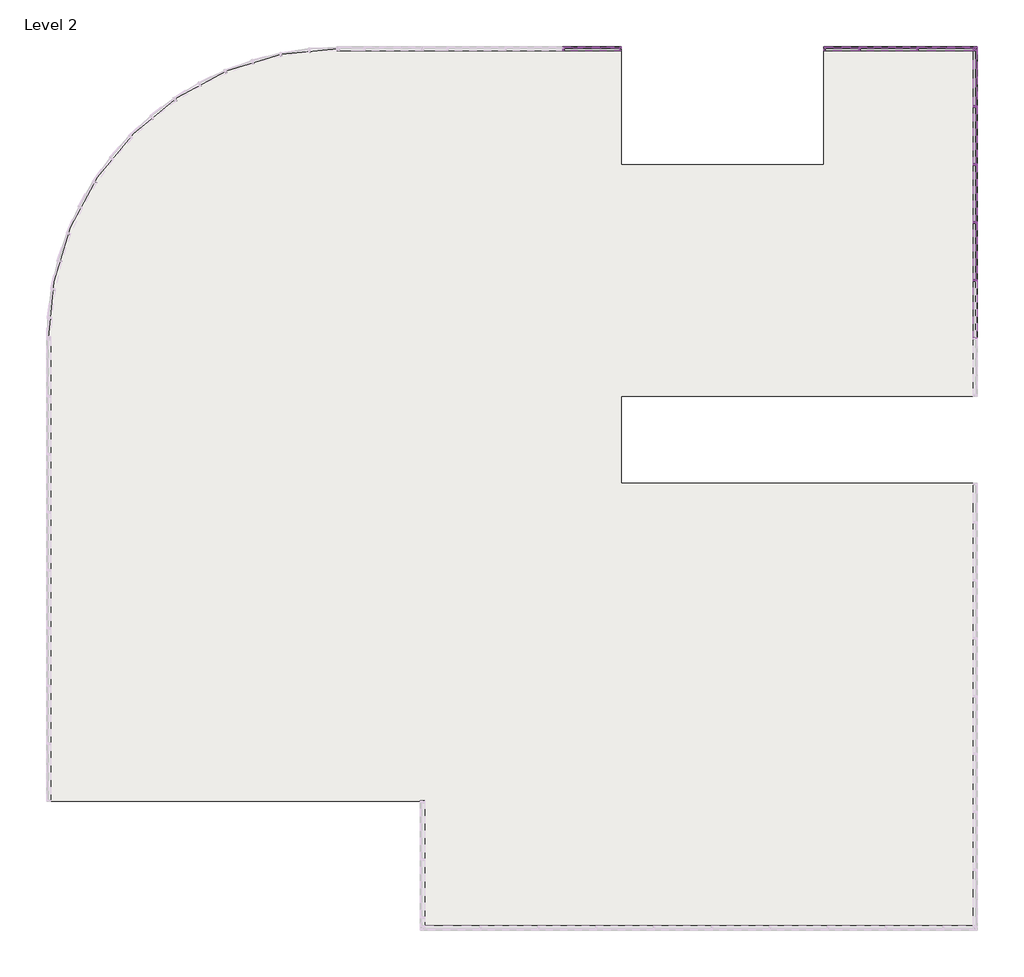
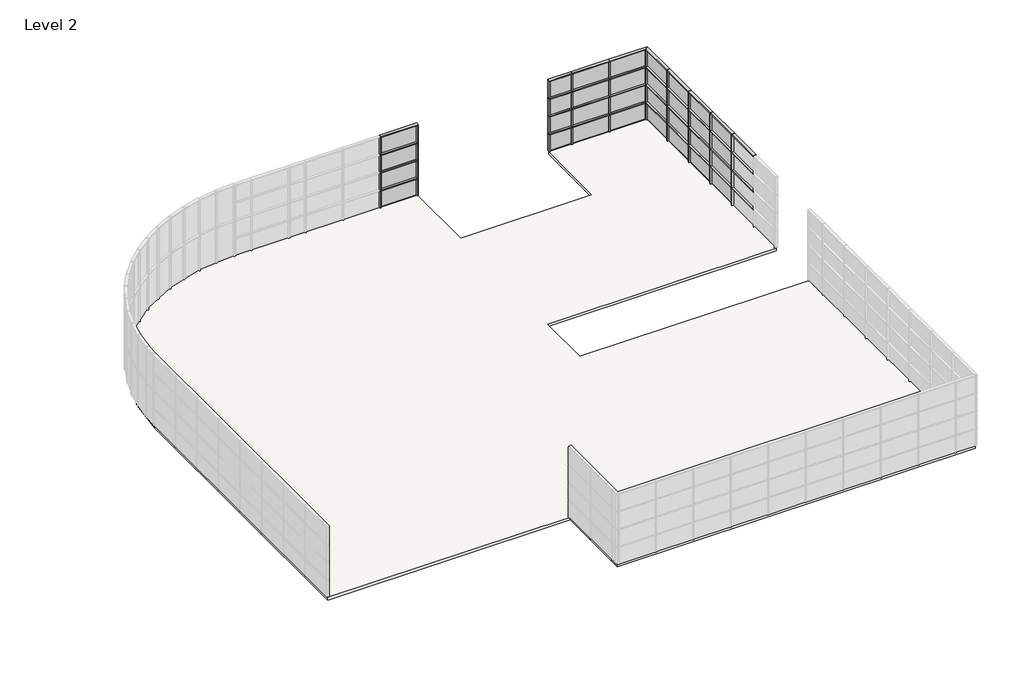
# One storey, part 6 of 6: 80 members, 32 plates, 1 slab.
"""IFC4 building model written with IfcOpenShell, lengths in millimetres."""

from ifc_helpers import new_model, si_unit, point, frame, frame_2d, origin, place, context, project, spatial, polyline, circle_curve, trimmed, segment, composite_curve, outline, extrude, transform, mapped, element, save
from components import rectangular_mullion_50_x_150mm_a053b0ca, rectangular_mullion_50_x_150mm_3a148f0f, rectangular_mullion_50_x_150mm_12a430f9, rectangular_mullion_50_x_150mm_11a594ce, rectangular_mullion_50_x_150mm_6b24f785, rectangular_mullion_50_x_150mm_947845bb, system_panel_glazed_751a585c, system_panel_glazed_08de6f5f, system_panel_glazed_892a108f

model = new_model("IFC4")

# Units and contexts
model_context = context("Model", 3, world=origin())
ifc_project = project(units=[si_unit("LENGTHUNIT", "METRE", prefix="MILLI")], contexts=[model_context])

# Site, building, storey
site = spatial("IfcSite", under=ifc_project)
building = spatial("IfcBuilding", under=site)
storey = spatial("IfcBuildingStorey", under=building, Name="Level 2", Elevation=4000.0)

# Members
placement = place(None, origin())
rectangular_mullion_50_x_150mm_shape = rectangular_mullion_50_x_150mm_a053b0ca(model_context)
element("IfcMember", 1, ObjectType="Rectangular Mullion : 50 x 150mm", at=placement, inside=storey, context=model_context, shape_type="MappedRepresentation", body=[
    mapped(rectangular_mullion_50_x_150mm_shape, transform((-721.580781, 8375.9839566, 4025.0), x_axis=(-1.0, 0.0, 0.0), y_axis=(0.0, 1.0, 0.0), z_axis=(0.0, 0.0, -1.0))),
])
element("IfcMember", 2, ObjectType="Rectangular Mullion : 50 x 150mm", at=placement, inside=storey, context=model_context, shape_type="MappedRepresentation", body=[
    mapped(rectangular_mullion_50_x_150mm_shape, transform((-721.580781, 8375.9839566, 5025.0), x_axis=(-1.0, 0.0, 0.0), y_axis=(0.0, 1.0, 0.0), z_axis=(0.0, 0.0, -0.9999999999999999))),
])
element("IfcMember", 3, ObjectType="Rectangular Mullion : 50 x 150mm", at=placement, inside=storey, context=model_context, shape_type="MappedRepresentation", body=[
    mapped(rectangular_mullion_50_x_150mm_shape, transform((-721.580781, 8375.9839566, 6025.0), x_axis=(-1.0, 0.0, 0.0), y_axis=(0.0, 1.0, 0.0), z_axis=(0.0, 0.0, -0.9999999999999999))),
])
element("IfcMember", 4, ObjectType="Rectangular Mullion : 50 x 150mm", at=placement, inside=storey, context=model_context, shape_type="MappedRepresentation", body=[
    mapped(rectangular_mullion_50_x_150mm_shape, transform((-721.580781, 8375.9839566, 7025.0), x_axis=(-1.0, 0.0, 0.0), y_axis=(0.0, 1.0, 0.0), z_axis=(0.0, 0.0, -1.0))),
])
element("IfcMember", 5, ObjectType="Rectangular Mullion : 50 x 150mm", at=placement, inside=storey, context=model_context, shape_type="MappedRepresentation", body=[
    mapped(rectangular_mullion_50_x_150mm_shape, transform((11503.2660975, 8375.9839566, 4025.0), x_axis=(-1.0, 0.0, 0.0), y_axis=(0.0, 1.0, 0.0), z_axis=(0.0, 0.0, -1.0))),
])
element("IfcMember", 6, ObjectType="Rectangular Mullion : 50 x 150mm", at=placement, inside=storey, context=model_context, shape_type="MappedRepresentation", body=[
    mapped(rectangular_mullion_50_x_150mm_shape, transform((11503.2660975, 8375.9839566, 5025.0), x_axis=(-1.0, 0.0, 0.0), y_axis=(0.0, 1.0, 0.0), z_axis=(0.0, 0.0, -0.9999999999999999))),
])
element("IfcMember", 7, ObjectType="Rectangular Mullion : 50 x 150mm", at=placement, inside=storey, context=model_context, shape_type="MappedRepresentation", body=[
    mapped(rectangular_mullion_50_x_150mm_shape, transform((11503.2660975, 8375.9839566, 6025.0), x_axis=(-1.0, 0.0, 0.0), y_axis=(0.0, 1.0, 0.0), z_axis=(0.0, 0.0, -0.9999999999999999))),
])
element("IfcMember", 8, ObjectType="Rectangular Mullion : 50 x 150mm", at=placement, inside=storey, context=model_context, shape_type="MappedRepresentation", body=[
    mapped(rectangular_mullion_50_x_150mm_shape, transform((11503.2660975, 8375.9839566, 7025.0), x_axis=(-1.0, 0.0, 0.0), y_axis=(0.0, 1.0, 0.0), z_axis=(0.0, 0.0, -1.0))),
])
element("IfcMember", 9, ObjectType="Rectangular Mullion : 50 x 150mm", at=placement, inside=storey, context=model_context, shape_type="MappedRepresentation", body=[
    mapped(rectangular_mullion_50_x_150mm_shape, transform((9503.2660975, 8375.9839566, 4025.0), x_axis=(-1.0, 0.0, 0.0), y_axis=(0.0, 1.0, 0.0), z_axis=(0.0, 0.0, -1.0))),
])
element("IfcMember", 10, ObjectType="Rectangular Mullion : 50 x 150mm", at=placement, inside=storey, context=model_context, shape_type="MappedRepresentation", body=[
    mapped(rectangular_mullion_50_x_150mm_shape, transform((9503.2660975, 8375.9839566, 5025.0), x_axis=(-1.0, 0.0, 0.0), y_axis=(0.0, 1.0, 0.0), z_axis=(0.0, 0.0, -0.9999999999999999))),
])
element("IfcMember", 11, ObjectType="Rectangular Mullion : 50 x 150mm", at=placement, inside=storey, context=model_context, shape_type="MappedRepresentation", body=[
    mapped(rectangular_mullion_50_x_150mm_shape, transform((9503.2660975, 8375.9839566, 6025.0), x_axis=(-1.0, 0.0, 0.0), y_axis=(0.0, 1.0, 0.0), z_axis=(0.0, 0.0, -0.9999999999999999))),
])
element("IfcMember", 12, ObjectType="Rectangular Mullion : 50 x 150mm", at=placement, inside=storey, context=model_context, shape_type="MappedRepresentation", body=[
    mapped(rectangular_mullion_50_x_150mm_shape, transform((9503.2660975, 8375.9839566, 7025.0), x_axis=(-1.0, 0.0, 0.0), y_axis=(0.0, 1.0, 0.0), z_axis=(0.0, 0.0, -1.0))),
])
element("IfcMember", 13, ObjectType="Rectangular Mullion : 50 x 150mm", at=placement, inside=storey, context=model_context, shape_type="MappedRepresentation", body=[
    mapped(rectangular_mullion_50_x_150mm_shape, transform((13503.2660975, 375.9839566, 4025.0), x_axis=(0.0, 1.0, 0.0), y_axis=(1.0, 0.0, 0.0), z_axis=(0.0, 0.0, -1.0))),
])
element("IfcMember", 14, ObjectType="Rectangular Mullion : 50 x 150mm", at=placement, inside=storey, context=model_context, shape_type="MappedRepresentation", body=[
    mapped(rectangular_mullion_50_x_150mm_shape, transform((13503.2660975, 375.9839566, 5025.0), x_axis=(0.0, 1.0, 0.0), y_axis=(1.0, 0.0, 0.0), z_axis=(0.0, 0.0, -0.9999999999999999))),
])
element("IfcMember", 15, ObjectType="Rectangular Mullion : 50 x 150mm", at=placement, inside=storey, context=model_context, shape_type="MappedRepresentation", body=[
    mapped(rectangular_mullion_50_x_150mm_shape, transform((13503.2660975, 375.9839566, 6025.0), x_axis=(0.0, 1.0, 0.0), y_axis=(1.0, 0.0, 0.0), z_axis=(0.0, 0.0, -0.9999999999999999))),
])
element("IfcMember", 16, ObjectType="Rectangular Mullion : 50 x 150mm", at=placement, inside=storey, context=model_context, shape_type="MappedRepresentation", body=[
    mapped(rectangular_mullion_50_x_150mm_shape, transform((13503.2660975, 375.9839566, 7025.0), x_axis=(0.0, 1.0, 0.0), y_axis=(1.0, 0.0, 0.0), z_axis=(0.0, 0.0, -1.0))),
])
element("IfcMember", 17, ObjectType="Rectangular Mullion : 50 x 150mm", at=placement, inside=storey, context=model_context, shape_type="MappedRepresentation", body=[
    mapped(rectangular_mullion_50_x_150mm_shape, transform((13503.2660975, 2375.9839566, 4025.0), x_axis=(0.0, 1.0, 0.0), y_axis=(1.0, 0.0, 0.0), z_axis=(0.0, 0.0, -1.0))),
])
element("IfcMember", 18, ObjectType="Rectangular Mullion : 50 x 150mm", at=placement, inside=storey, context=model_context, shape_type="MappedRepresentation", body=[
    mapped(rectangular_mullion_50_x_150mm_shape, transform((13503.2660975, 2375.9839566, 5025.0), x_axis=(0.0, 1.0, 0.0), y_axis=(1.0, 0.0, 0.0), z_axis=(0.0, 0.0, -0.9999999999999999))),
])
element("IfcMember", 19, ObjectType="Rectangular Mullion : 50 x 150mm", at=placement, inside=storey, context=model_context, shape_type="MappedRepresentation", body=[
    mapped(rectangular_mullion_50_x_150mm_shape, transform((13503.2660975, 2375.9839566, 6025.0), x_axis=(0.0, 1.0, 0.0), y_axis=(1.0, 0.0, 0.0), z_axis=(0.0, 0.0, -0.9999999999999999))),
])
element("IfcMember", 20, ObjectType="Rectangular Mullion : 50 x 150mm", at=placement, inside=storey, context=model_context, shape_type="MappedRepresentation", body=[
    mapped(rectangular_mullion_50_x_150mm_shape, transform((13503.2660975, 2375.9839566, 7025.0), x_axis=(0.0, 1.0, 0.0), y_axis=(1.0, 0.0, 0.0), z_axis=(0.0, 0.0, -1.0))),
])
element("IfcMember", 21, ObjectType="Rectangular Mullion : 50 x 150mm", at=placement, inside=storey, context=model_context, shape_type="MappedRepresentation", body=[
    mapped(rectangular_mullion_50_x_150mm_shape, transform((13503.2660975, 4375.9839566, 4025.0), x_axis=(0.0, 1.0, 0.0), y_axis=(1.0, 0.0, 0.0), z_axis=(0.0, 0.0, -1.0))),
])
element("IfcMember", 22, ObjectType="Rectangular Mullion : 50 x 150mm", at=placement, inside=storey, context=model_context, shape_type="MappedRepresentation", body=[
    mapped(rectangular_mullion_50_x_150mm_shape, transform((13503.2660975, 4375.9839566, 5025.0), x_axis=(0.0, 1.0, 0.0), y_axis=(1.0, 0.0, 0.0), z_axis=(0.0, 0.0, -0.9999999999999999))),
])
element("IfcMember", 23, ObjectType="Rectangular Mullion : 50 x 150mm", at=placement, inside=storey, context=model_context, shape_type="MappedRepresentation", body=[
    mapped(rectangular_mullion_50_x_150mm_shape, transform((13503.2660975, 4375.9839566, 6025.0), x_axis=(0.0, 1.0, 0.0), y_axis=(1.0, 0.0, 0.0), z_axis=(0.0, 0.0, -0.9999999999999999))),
])
element("IfcMember", 24, ObjectType="Rectangular Mullion : 50 x 150mm", at=placement, inside=storey, context=model_context, shape_type="MappedRepresentation", body=[
    mapped(rectangular_mullion_50_x_150mm_shape, transform((13503.2660975, 4375.9839566, 7025.0), x_axis=(0.0, 1.0, 0.0), y_axis=(1.0, 0.0, 0.0), z_axis=(0.0, 0.0, -1.0))),
])
element("IfcMember", 25, ObjectType="Rectangular Mullion : 50 x 150mm", at=placement, inside=storey, context=model_context, shape_type="MappedRepresentation", body=[
    mapped(rectangular_mullion_50_x_150mm_shape, transform((13503.2660975, 6375.9839566, 4025.0), x_axis=(0.0, 1.0, 0.0), y_axis=(1.0, 0.0, 0.0), z_axis=(0.0, 0.0, -1.0))),
])
element("IfcMember", 26, ObjectType="Rectangular Mullion : 50 x 150mm", at=placement, inside=storey, context=model_context, shape_type="MappedRepresentation", body=[
    mapped(rectangular_mullion_50_x_150mm_shape, transform((13503.2660975, 6375.9839566, 5025.0), x_axis=(0.0, 1.0, 0.0), y_axis=(1.0, 0.0, 0.0), z_axis=(0.0, 0.0, -0.9999999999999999))),
])
element("IfcMember", 27, ObjectType="Rectangular Mullion : 50 x 150mm", at=placement, inside=storey, context=model_context, shape_type="MappedRepresentation", body=[
    mapped(rectangular_mullion_50_x_150mm_shape, transform((13503.2660975, 6375.9839566, 6025.0), x_axis=(0.0, 1.0, 0.0), y_axis=(1.0, 0.0, 0.0), z_axis=(0.0, 0.0, -0.9999999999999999))),
])
element("IfcMember", 28, ObjectType="Rectangular Mullion : 50 x 150mm", at=placement, inside=storey, context=model_context, shape_type="MappedRepresentation", body=[
    mapped(rectangular_mullion_50_x_150mm_shape, transform((13503.2660975, 6375.9839566, 7025.0), x_axis=(0.0, 1.0, 0.0), y_axis=(1.0, 0.0, 0.0), z_axis=(0.0, 0.0, -1.0))),
])
rectangular_mullion_50_x_150mm_2_shape = rectangular_mullion_50_x_150mm_3a148f0f(model_context)
element("IfcMember", 29, ObjectType="Rectangular Mullion : 50 x 150mm", at=placement, inside=storey, context=model_context, shape_type="MappedRepresentation", body=[
    mapped(rectangular_mullion_50_x_150mm_2_shape, transform((-721.580781, 8375.9839566, 5000.0), x_axis=(0.0, 0.0, 1.0), y_axis=(0.0, 1.0, 0.0), z_axis=(-1.0, 0.0, 0.0))),
])
element("IfcMember", 30, ObjectType="Rectangular Mullion : 50 x 150mm", at=placement, inside=storey, context=model_context, shape_type="MappedRepresentation", body=[
    mapped(rectangular_mullion_50_x_150mm_2_shape, transform((-721.580781, 8375.9839566, 6000.0), x_axis=(0.0, 0.0, 1.0), y_axis=(0.0, 1.0, 0.0), z_axis=(-1.0, 0.0, 0.0))),
])
element("IfcMember", 31, ObjectType="Rectangular Mullion : 50 x 150mm", at=placement, inside=storey, context=model_context, shape_type="MappedRepresentation", body=[
    mapped(rectangular_mullion_50_x_150mm_2_shape, transform((-721.580781, 8375.9839566, 7000.0), x_axis=(0.0, 0.0, 1.0), y_axis=(0.0, 1.0, 0.0), z_axis=(-1.0, 0.0, 0.0))),
])
element("IfcMember", 32, ObjectType="Rectangular Mullion : 50 x 150mm", at=placement, inside=storey, context=model_context, shape_type="MappedRepresentation", body=[
    mapped(rectangular_mullion_50_x_150mm_2_shape, transform((-721.580781, 8375.9839566, 8000.0), x_axis=(0.0, 0.0, 1.0), y_axis=(0.0, 1.0, 0.0), z_axis=(-1.0, 0.0, 0.0))),
])
element("IfcMember", 33, ObjectType="Rectangular Mullion : 50 x 150mm", at=placement, inside=storey, context=model_context, shape_type="MappedRepresentation", body=[
    mapped(rectangular_mullion_50_x_150mm_2_shape, transform((9503.2660975, 8375.9839566, 5000.0), x_axis=(0.0, 0.0, 1.0), y_axis=(0.0, 1.0, 0.0), z_axis=(-1.0, 0.0, 0.0))),
])
element("IfcMember", 34, ObjectType="Rectangular Mullion : 50 x 150mm", at=placement, inside=storey, context=model_context, shape_type="MappedRepresentation", body=[
    mapped(rectangular_mullion_50_x_150mm_2_shape, transform((9503.2660975, 8375.9839566, 6000.0), x_axis=(0.0, 0.0, 1.0), y_axis=(0.0, 1.0, 0.0), z_axis=(-1.0, 0.0, 0.0))),
])
element("IfcMember", 35, ObjectType="Rectangular Mullion : 50 x 150mm", at=placement, inside=storey, context=model_context, shape_type="MappedRepresentation", body=[
    mapped(rectangular_mullion_50_x_150mm_2_shape, transform((9503.2660975, 8375.9839566, 7000.0), x_axis=(0.0, 0.0, 1.0), y_axis=(0.0, 1.0, 0.0), z_axis=(-1.0, 0.0, 0.0))),
])
element("IfcMember", 36, ObjectType="Rectangular Mullion : 50 x 150mm", at=placement, inside=storey, context=model_context, shape_type="MappedRepresentation", body=[
    mapped(rectangular_mullion_50_x_150mm_2_shape, transform((9503.2660975, 8375.9839566, 8000.0), x_axis=(0.0, 0.0, 1.0), y_axis=(0.0, 1.0, 0.0), z_axis=(-1.0, 0.0, 0.0))),
])
element("IfcMember", 37, ObjectType="Rectangular Mullion : 50 x 150mm", at=placement, inside=storey, context=model_context, shape_type="MappedRepresentation", body=[
    mapped(rectangular_mullion_50_x_150mm_2_shape, transform((13503.2660975, 375.9839566, 5000.0), x_axis=(0.0, 0.0, 1.0), y_axis=(1.0, 0.0, 0.0), z_axis=(0.0, 0.9999999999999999, 0.0))),
])
element("IfcMember", 38, ObjectType="Rectangular Mullion : 50 x 150mm", at=placement, inside=storey, context=model_context, shape_type="MappedRepresentation", body=[
    mapped(rectangular_mullion_50_x_150mm_2_shape, transform((13503.2660975, 2375.9839566, 5000.0), x_axis=(0.0, 0.0, 1.0), y_axis=(1.0, 0.0, 0.0), z_axis=(0.0, 1.0, 0.0))),
])
element("IfcMember", 39, ObjectType="Rectangular Mullion : 50 x 150mm", at=placement, inside=storey, context=model_context, shape_type="MappedRepresentation", body=[
    mapped(rectangular_mullion_50_x_150mm_2_shape, transform((13503.2660975, 4375.9839566, 5000.0), x_axis=(0.0, 0.0, 1.0), y_axis=(1.0, 0.0, 0.0), z_axis=(0.0, 1.0, 0.0))),
])
element("IfcMember", 40, ObjectType="Rectangular Mullion : 50 x 150mm", at=placement, inside=storey, context=model_context, shape_type="MappedRepresentation", body=[
    mapped(rectangular_mullion_50_x_150mm_2_shape, transform((13503.2660975, 6375.9839566, 5000.0), x_axis=(0.0, 0.0, 1.0), y_axis=(1.0, 0.0, 0.0), z_axis=(0.0, 1.0, 0.0))),
])
element("IfcMember", 41, ObjectType="Rectangular Mullion : 50 x 150mm", at=placement, inside=storey, context=model_context, shape_type="MappedRepresentation", body=[
    mapped(rectangular_mullion_50_x_150mm_2_shape, transform((13503.2660975, 375.9839566, 6000.0), x_axis=(0.0, 0.0, 1.0), y_axis=(1.0, 0.0, 0.0), z_axis=(0.0, 1.0, 0.0))),
])
element("IfcMember", 42, ObjectType="Rectangular Mullion : 50 x 150mm", at=placement, inside=storey, context=model_context, shape_type="MappedRepresentation", body=[
    mapped(rectangular_mullion_50_x_150mm_2_shape, transform((13503.2660975, 2375.9839566, 6000.0), x_axis=(0.0, 0.0, 1.0), y_axis=(1.0, 0.0, 0.0), z_axis=(0.0, 1.0, 0.0))),
])
element("IfcMember", 43, ObjectType="Rectangular Mullion : 50 x 150mm", at=placement, inside=storey, context=model_context, shape_type="MappedRepresentation", body=[
    mapped(rectangular_mullion_50_x_150mm_2_shape, transform((13503.2660975, 4375.9839566, 6000.0), x_axis=(0.0, 0.0, 1.0), y_axis=(1.0, 0.0, 0.0), z_axis=(0.0, 1.0, 0.0))),
])
element("IfcMember", 44, ObjectType="Rectangular Mullion : 50 x 150mm", at=placement, inside=storey, context=model_context, shape_type="MappedRepresentation", body=[
    mapped(rectangular_mullion_50_x_150mm_2_shape, transform((13503.2660975, 6375.9839566, 6000.0), x_axis=(0.0, 0.0, 1.0), y_axis=(1.0, 0.0, 0.0), z_axis=(0.0, 1.0, 0.0))),
])
element("IfcMember", 45, ObjectType="Rectangular Mullion : 50 x 150mm", at=placement, inside=storey, context=model_context, shape_type="MappedRepresentation", body=[
    mapped(rectangular_mullion_50_x_150mm_2_shape, transform((13503.2660975, 375.9839566, 7000.0), x_axis=(0.0, 0.0, 1.0), y_axis=(1.0, 0.0, 0.0), z_axis=(0.0, 1.0, 0.0))),
])
element("IfcMember", 46, ObjectType="Rectangular Mullion : 50 x 150mm", at=placement, inside=storey, context=model_context, shape_type="MappedRepresentation", body=[
    mapped(rectangular_mullion_50_x_150mm_2_shape, transform((13503.2660975, 2375.9839566, 7000.0), x_axis=(0.0, 0.0, 1.0), y_axis=(1.0, 0.0, 0.0), z_axis=(0.0, 1.0, 0.0))),
])
element("IfcMember", 47, ObjectType="Rectangular Mullion : 50 x 150mm", at=placement, inside=storey, context=model_context, shape_type="MappedRepresentation", body=[
    mapped(rectangular_mullion_50_x_150mm_2_shape, transform((13503.2660975, 4375.9839566, 7000.0), x_axis=(0.0, 0.0, 1.0), y_axis=(1.0, 0.0, 0.0), z_axis=(0.0, 1.0, 0.0))),
])
element("IfcMember", 48, ObjectType="Rectangular Mullion : 50 x 150mm", at=placement, inside=storey, context=model_context, shape_type="MappedRepresentation", body=[
    mapped(rectangular_mullion_50_x_150mm_2_shape, transform((13503.2660975, 6375.9839566, 7000.0), x_axis=(0.0, 0.0, 1.0), y_axis=(1.0, 0.0, 0.0), z_axis=(0.0, 1.0, 0.0))),
])
element("IfcMember", 49, ObjectType="Rectangular Mullion : 50 x 150mm", at=placement, inside=storey, context=model_context, shape_type="MappedRepresentation", body=[
    mapped(rectangular_mullion_50_x_150mm_2_shape, transform((13503.2660975, 375.9839566, 8000.0), x_axis=(0.0, 0.0, 1.0), y_axis=(1.0, 0.0, 0.0), z_axis=(0.0, 0.9999999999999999, 0.0))),
])
element("IfcMember", 50, ObjectType="Rectangular Mullion : 50 x 150mm", at=placement, inside=storey, context=model_context, shape_type="MappedRepresentation", body=[
    mapped(rectangular_mullion_50_x_150mm_2_shape, transform((13503.2660975, 2375.9839566, 8000.0), x_axis=(0.0, 0.0, 1.0), y_axis=(1.0, 0.0, 0.0), z_axis=(0.0, 1.0, 0.0))),
])
element("IfcMember", 51, ObjectType="Rectangular Mullion : 50 x 150mm", at=placement, inside=storey, context=model_context, shape_type="MappedRepresentation", body=[
    mapped(rectangular_mullion_50_x_150mm_2_shape, transform((13503.2660975, 4375.9839566, 8000.0), x_axis=(0.0, 0.0, 1.0), y_axis=(1.0, 0.0, 0.0), z_axis=(0.0, 1.0, 0.0))),
])
element("IfcMember", 52, ObjectType="Rectangular Mullion : 50 x 150mm", at=placement, inside=storey, context=model_context, shape_type="MappedRepresentation", body=[
    mapped(rectangular_mullion_50_x_150mm_2_shape, transform((13503.2660975, 6375.9839566, 8000.0), x_axis=(0.0, 0.0, 1.0), y_axis=(1.0, 0.0, 0.0), z_axis=(0.0, 1.0, 0.0))),
])
rectangular_mullion_50_x_150mm_3_shape = rectangular_mullion_50_x_150mm_12a430f9(model_context)
element("IfcMember", 53, ObjectType="Rectangular Mullion : 50 x 150mm", at=placement, inside=storey, context=model_context, shape_type="MappedRepresentation", body=[
    mapped(rectangular_mullion_50_x_150mm_3_shape, transform((1278.419219, 8375.9839566, 4975.0), x_axis=(1.0, 0.0, 0.0), y_axis=(0.0, 1.0, 0.0), z_axis=(0.0, 0.0, 1.0))),
])
element("IfcMember", 54, ObjectType="Rectangular Mullion : 50 x 150mm", at=placement, inside=storey, context=model_context, shape_type="MappedRepresentation", body=[
    mapped(rectangular_mullion_50_x_150mm_3_shape, transform((1278.419219, 8375.9839566, 5975.0), x_axis=(1.0, 0.0, 0.0), y_axis=(0.0, 1.0, 0.0), z_axis=(0.0, 0.0, 0.9999999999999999))),
])
element("IfcMember", 55, ObjectType="Rectangular Mullion : 50 x 150mm", at=placement, inside=storey, context=model_context, shape_type="MappedRepresentation", body=[
    mapped(rectangular_mullion_50_x_150mm_3_shape, transform((1278.419219, 8375.9839566, 6975.0), x_axis=(1.0, 0.0, 0.0), y_axis=(0.0, 1.0, 0.0), z_axis=(0.0, 0.0, 0.9999999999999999))),
])
element("IfcMember", 56, ObjectType="Rectangular Mullion : 50 x 150mm", at=placement, inside=storey, context=model_context, shape_type="MappedRepresentation", body=[
    mapped(rectangular_mullion_50_x_150mm_3_shape, transform((1278.419219, 8375.9839566, 7975.0), x_axis=(1.0, 0.0, 0.0), y_axis=(0.0, 1.0, 0.0), z_axis=(0.0, 0.0, 1.0))),
])
element("IfcMember", 57, ObjectType="Rectangular Mullion : 50 x 150mm", at=placement, inside=storey, context=model_context, shape_type="MappedRepresentation", body=[
    mapped(rectangular_mullion_50_x_150mm_3_shape, transform((13503.2660975, 8375.9839566, 4975.0), x_axis=(1.0, 0.0, 0.0), y_axis=(0.0, 1.0, 0.0), z_axis=(0.0, 0.0, 1.0))),
])
element("IfcMember", 58, ObjectType="Rectangular Mullion : 50 x 150mm", at=placement, inside=storey, context=model_context, shape_type="MappedRepresentation", body=[
    mapped(rectangular_mullion_50_x_150mm_3_shape, transform((13503.2660975, 8375.9839566, 5975.0), x_axis=(1.0, 0.0, 0.0), y_axis=(0.0, 1.0, 0.0), z_axis=(0.0, 0.0, 0.9999999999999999))),
])
element("IfcMember", 59, ObjectType="Rectangular Mullion : 50 x 150mm", at=placement, inside=storey, context=model_context, shape_type="MappedRepresentation", body=[
    mapped(rectangular_mullion_50_x_150mm_3_shape, transform((13503.2660975, 8375.9839566, 6975.0), x_axis=(1.0, 0.0, 0.0), y_axis=(0.0, 1.0, 0.0), z_axis=(0.0, 0.0, 0.9999999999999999))),
])
element("IfcMember", 60, ObjectType="Rectangular Mullion : 50 x 150mm", at=placement, inside=storey, context=model_context, shape_type="MappedRepresentation", body=[
    mapped(rectangular_mullion_50_x_150mm_3_shape, transform((13503.2660975, 8375.9839566, 7975.0), x_axis=(1.0, 0.0, 0.0), y_axis=(0.0, 1.0, 0.0), z_axis=(0.0, 0.0, 1.0))),
])
element("IfcMember", 61, ObjectType="Rectangular Mullion : 50 x 150mm", at=placement, inside=storey, context=model_context, shape_type="MappedRepresentation", body=[
    mapped(rectangular_mullion_50_x_150mm_3_shape, transform((8278.419219, 8375.9839566, 4025.0), x_axis=(-1.0, 0.0, 0.0), y_axis=(0.0, 1.0, 0.0), z_axis=(0.0, 0.0, -1.0))),
])
element("IfcMember", 62, ObjectType="Rectangular Mullion : 50 x 150mm", at=placement, inside=storey, context=model_context, shape_type="MappedRepresentation", body=[
    mapped(rectangular_mullion_50_x_150mm_3_shape, transform((8278.419219, 8375.9839566, 5025.0), x_axis=(-1.0, 0.0, 0.0), y_axis=(0.0, 1.0, 0.0), z_axis=(0.0, 0.0, -0.9999999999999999))),
])
element("IfcMember", 63, ObjectType="Rectangular Mullion : 50 x 150mm", at=placement, inside=storey, context=model_context, shape_type="MappedRepresentation", body=[
    mapped(rectangular_mullion_50_x_150mm_3_shape, transform((8278.419219, 8375.9839566, 6025.0), x_axis=(-1.0, 0.0, 0.0), y_axis=(0.0, 1.0, 0.0), z_axis=(0.0, 0.0, -0.9999999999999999))),
])
element("IfcMember", 64, ObjectType="Rectangular Mullion : 50 x 150mm", at=placement, inside=storey, context=model_context, shape_type="MappedRepresentation", body=[
    mapped(rectangular_mullion_50_x_150mm_3_shape, transform((8278.419219, 8375.9839566, 7025.0), x_axis=(-1.0, 0.0, 0.0), y_axis=(0.0, 1.0, 0.0), z_axis=(0.0, 0.0, -1.0))),
])
element("IfcMember", 65, ObjectType="Rectangular Mullion : 50 x 150mm", at=placement, inside=storey, context=model_context, shape_type="MappedRepresentation", body=[
    mapped(rectangular_mullion_50_x_150mm_3_shape, transform((13503.2660975, 8375.9839566, 4025.0), x_axis=(0.0, 1.0, 0.0), y_axis=(1.0, 0.0, 0.0), z_axis=(0.0, 0.0, -1.0))),
])
element("IfcMember", 66, ObjectType="Rectangular Mullion : 50 x 150mm", at=placement, inside=storey, context=model_context, shape_type="MappedRepresentation", body=[
    mapped(rectangular_mullion_50_x_150mm_3_shape, transform((13503.2660975, 8375.9839566, 5025.0), x_axis=(0.0, 1.0, 0.0), y_axis=(1.0, 0.0, 0.0), z_axis=(0.0, 0.0, -0.9999999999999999))),
])
element("IfcMember", 67, ObjectType="Rectangular Mullion : 50 x 150mm", at=placement, inside=storey, context=model_context, shape_type="MappedRepresentation", body=[
    mapped(rectangular_mullion_50_x_150mm_3_shape, transform((13503.2660975, 8375.9839566, 6025.0), x_axis=(0.0, 1.0, 0.0), y_axis=(1.0, 0.0, 0.0), z_axis=(0.0, 0.0, -0.9999999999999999))),
])
element("IfcMember", 68, ObjectType="Rectangular Mullion : 50 x 150mm", at=placement, inside=storey, context=model_context, shape_type="MappedRepresentation", body=[
    mapped(rectangular_mullion_50_x_150mm_3_shape, transform((13503.2660975, 8375.9839566, 7025.0), x_axis=(0.0, 1.0, 0.0), y_axis=(1.0, 0.0, 0.0), z_axis=(0.0, 0.0, -1.0))),
])
rectangular_mullion_50_x_150mm_4_shape = rectangular_mullion_50_x_150mm_11a594ce(model_context)
element("IfcMember", 69, ObjectType="Rectangular Mullion : 50 x 150mm", at=placement, inside=storey, context=model_context, shape_type="MappedRepresentation", body=[
    mapped(rectangular_mullion_50_x_150mm_4_shape, transform((8278.419219, 8375.9839566, 5000.0), x_axis=(0.0, 0.0, 1.0), y_axis=(0.0, 1.0, 0.0), z_axis=(-1.0, 0.0, 0.0))),
])
element("IfcMember", 70, ObjectType="Rectangular Mullion : 50 x 150mm", at=placement, inside=storey, context=model_context, shape_type="MappedRepresentation", body=[
    mapped(rectangular_mullion_50_x_150mm_4_shape, transform((8278.419219, 8375.9839566, 6000.0), x_axis=(0.0, 0.0, 1.0), y_axis=(0.0, 1.0, 0.0), z_axis=(-1.0, 0.0, 0.0))),
])
element("IfcMember", 71, ObjectType="Rectangular Mullion : 50 x 150mm", at=placement, inside=storey, context=model_context, shape_type="MappedRepresentation", body=[
    mapped(rectangular_mullion_50_x_150mm_4_shape, transform((8278.419219, 8375.9839566, 7000.0), x_axis=(0.0, 0.0, 1.0), y_axis=(0.0, 1.0, 0.0), z_axis=(-1.0, 0.0, 0.0))),
])
element("IfcMember", 72, ObjectType="Rectangular Mullion : 50 x 150mm", at=placement, inside=storey, context=model_context, shape_type="MappedRepresentation", body=[
    mapped(rectangular_mullion_50_x_150mm_4_shape, transform((8278.419219, 8375.9839566, 8000.0), x_axis=(0.0, 0.0, 1.0), y_axis=(0.0, 1.0, 0.0), z_axis=(-1.0, 0.0, 0.0))),
])
rectangular_mullion_50_x_150mm_5_shape = rectangular_mullion_50_x_150mm_6b24f785(model_context)
element("IfcMember", 73, ObjectType="Rectangular Mullion : 50 x 150mm", at=placement, inside=storey, context=model_context, shape_type="MappedRepresentation", body=[
    mapped(rectangular_mullion_50_x_150mm_5_shape, transform((13503.2660975, 8375.9839566, 6000.0), x_axis=(0.0, 0.0, 1.0), y_axis=(1.0, 0.0, 0.0), z_axis=(0.0, 0.9999999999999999, 0.0))),
])
element("IfcMember", 74, ObjectType="Rectangular Mullion : 50 x 150mm", at=placement, inside=storey, context=model_context, shape_type="MappedRepresentation", body=[
    mapped(rectangular_mullion_50_x_150mm_5_shape, transform((13503.2660975, 8375.9839566, 7000.0), x_axis=(0.0, 0.0, 1.0), y_axis=(1.0, 0.0, 0.0), z_axis=(0.0, 0.9999999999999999, 0.0))),
])
element("IfcMember", 75, ObjectType="Rectangular Mullion : 50 x 150mm", at=placement, inside=storey, context=model_context, shape_type="MappedRepresentation", body=[
    mapped(rectangular_mullion_50_x_150mm_5_shape, transform((13503.2660975, 8375.9839566, 8000.0), x_axis=(0.0, 0.0, 1.0), y_axis=(1.0, 0.0, 0.0), z_axis=(0.0, 0.9999999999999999, 0.0))),
])
element("IfcMember", 76, ObjectType="Rectangular Mullion : 50 x 150mm", at=placement, inside=storey, context=model_context, shape_type="MappedRepresentation", body=[
    mapped(rectangular_mullion_50_x_150mm_5_shape, transform((13503.2660975, 8375.9839566, 5000.0), x_axis=(0.0, 0.0, 1.0), y_axis=(1.0, 0.0, 0.0), z_axis=(0.0, 0.9999999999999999, 0.0))),
])
rectangular_mullion_50_x_150mm_6_shape = rectangular_mullion_50_x_150mm_947845bb(model_context)
element("IfcMember", 77, ObjectType="Rectangular Mullion : 50 x 150mm", at=placement, inside=storey, context=model_context, shape_type="MappedRepresentation", body=[
    mapped(rectangular_mullion_50_x_150mm_6_shape, transform((11503.2660975, 8375.9839566, 5000.0), x_axis=(0.0, 0.0, 1.0), y_axis=(0.0, 1.0, 0.0), z_axis=(-1.0, 0.0, 0.0))),
])
element("IfcMember", 78, ObjectType="Rectangular Mullion : 50 x 150mm", at=placement, inside=storey, context=model_context, shape_type="MappedRepresentation", body=[
    mapped(rectangular_mullion_50_x_150mm_6_shape, transform((11503.2660975, 8375.9839566, 6000.0), x_axis=(0.0, 0.0, 1.0), y_axis=(0.0, 1.0, 0.0), z_axis=(-1.0, 0.0, 0.0))),
])
element("IfcMember", 79, ObjectType="Rectangular Mullion : 50 x 150mm", at=placement, inside=storey, context=model_context, shape_type="MappedRepresentation", body=[
    mapped(rectangular_mullion_50_x_150mm_6_shape, transform((11503.2660975, 8375.9839566, 7000.0), x_axis=(0.0, 0.0, 1.0), y_axis=(0.0, 1.0, 0.0), z_axis=(-1.0, 0.0, 0.0))),
])
element("IfcMember", 80, ObjectType="Rectangular Mullion : 50 x 150mm", at=placement, inside=storey, context=model_context, shape_type="MappedRepresentation", body=[
    mapped(rectangular_mullion_50_x_150mm_6_shape, transform((11503.2660975, 8375.9839566, 8000.0), x_axis=(0.0, 0.0, 1.0), y_axis=(0.0, 1.0, 0.0), z_axis=(-1.0, 0.0, 0.0))),
])

# Plates
system_panel_glazed_shape = system_panel_glazed_751a585c(model_context)
element("IfcPlate", 81, ObjectType="System Panel : Glazed", at=placement, inside=storey, context=model_context, shape_type="MappedRepresentation", body=[
    mapped(system_panel_glazed_shape, transform((13503.2660975, 6400.9839566, 4500.0), x_axis=(0.0, 0.0, 1.0), y_axis=(1.0, 0.0, 0.0), z_axis=(0.0, 1.0, 0.0))),
])
element("IfcPlate", 82, ObjectType="System Panel : Glazed", at=placement, inside=storey, context=model_context, shape_type="MappedRepresentation", body=[
    mapped(system_panel_glazed_shape, transform((13503.2660975, 6400.9839566, 5500.0), x_axis=(0.0, 0.0, 1.0), y_axis=(1.0, 0.0, 0.0), z_axis=(0.0, 1.0, 0.0))),
])
element("IfcPlate", 83, ObjectType="System Panel : Glazed", at=placement, inside=storey, context=model_context, shape_type="MappedRepresentation", body=[
    mapped(system_panel_glazed_shape, transform((13503.2660975, 6400.9839566, 6500.0), x_axis=(0.0, 0.0, 1.0), y_axis=(1.0, 0.0, 0.0), z_axis=(0.0, 1.0, 0.0))),
])
element("IfcPlate", 84, ObjectType="System Panel : Glazed", at=placement, inside=storey, context=model_context, shape_type="MappedRepresentation", body=[
    mapped(system_panel_glazed_shape, transform((13503.2660975, 6400.9839566, 7500.0), x_axis=(0.0, 0.0, 1.0), y_axis=(1.0, 0.0, 0.0), z_axis=(0.0, 1.0, 0.0))),
])
element("IfcPlate", 85, ObjectType="System Panel : Glazed", at=placement, inside=storey, context=model_context, shape_type="MappedRepresentation", body=[
    mapped(system_panel_glazed_shape, transform((13453.2660975, 8375.9839566, 4500.0), x_axis=(0.0, 0.0, 1.0), y_axis=(0.0, 1.0, 0.0), z_axis=(-1.0, 0.0, 0.0))),
])
element("IfcPlate", 86, ObjectType="System Panel : Glazed", at=placement, inside=storey, context=model_context, shape_type="MappedRepresentation", body=[
    mapped(system_panel_glazed_shape, transform((13453.2660975, 8375.9839566, 5500.0), x_axis=(0.0, 0.0, 1.0), y_axis=(0.0, 1.0, 0.0), z_axis=(-1.0, 0.0, 0.0))),
])
element("IfcPlate", 87, ObjectType="System Panel : Glazed", at=placement, inside=storey, context=model_context, shape_type="MappedRepresentation", body=[
    mapped(system_panel_glazed_shape, transform((13453.2660975, 8375.9839566, 6500.0), x_axis=(0.0, 0.0, 1.0), y_axis=(0.0, 1.0, 0.0), z_axis=(-1.0, 0.0, 0.0))),
])
element("IfcPlate", 88, ObjectType="System Panel : Glazed", at=placement, inside=storey, context=model_context, shape_type="MappedRepresentation", body=[
    mapped(system_panel_glazed_shape, transform((13453.2660975, 8375.9839566, 7500.0), x_axis=(0.0, 0.0, 1.0), y_axis=(0.0, 1.0, 0.0), z_axis=(-1.0, 0.0, 0.0))),
])
element("IfcPlate", 89, ObjectType="System Panel : Glazed", at=placement, inside=storey, context=model_context, shape_type="MappedRepresentation", body=[
    mapped(system_panel_glazed_shape, transform((1228.419219, 8375.9839566, 4500.0), x_axis=(0.0, 0.0, 1.0), y_axis=(0.0, 1.0, 0.0), z_axis=(-1.0, 0.0, 0.0))),
])
element("IfcPlate", 90, ObjectType="System Panel : Glazed", at=placement, inside=storey, context=model_context, shape_type="MappedRepresentation", body=[
    mapped(system_panel_glazed_shape, transform((1228.419219, 8375.9839566, 5500.0), x_axis=(0.0, 0.0, 1.0), y_axis=(0.0, 1.0, 0.0), z_axis=(-1.0, 0.0, 0.0))),
])
element("IfcPlate", 91, ObjectType="System Panel : Glazed", at=placement, inside=storey, context=model_context, shape_type="MappedRepresentation", body=[
    mapped(system_panel_glazed_shape, transform((1228.419219, 8375.9839566, 6500.0), x_axis=(0.0, 0.0, 1.0), y_axis=(0.0, 1.0, 0.0), z_axis=(-1.0, 0.0, 0.0))),
])
element("IfcPlate", 92, ObjectType="System Panel : Glazed", at=placement, inside=storey, context=model_context, shape_type="MappedRepresentation", body=[
    mapped(system_panel_glazed_shape, transform((1228.419219, 8375.9839566, 7500.0), x_axis=(0.0, 0.0, 1.0), y_axis=(0.0, 1.0, 0.0), z_axis=(-1.0, 0.0, 0.0))),
])
system_panel_glazed_2_shape = system_panel_glazed_08de6f5f(model_context)
element("IfcPlate", 93, ObjectType="System Panel : Glazed", at=placement, inside=storey, context=model_context, shape_type="MappedRepresentation", body=[
    mapped(system_panel_glazed_2_shape, transform((13503.2660975, 400.9839566, 4500.0), x_axis=(0.0, 0.0, 1.0), y_axis=(1.0, 0.0, 0.0), z_axis=(0.0, 1.0, 0.0))),
])
element("IfcPlate", 94, ObjectType="System Panel : Glazed", at=placement, inside=storey, context=model_context, shape_type="MappedRepresentation", body=[
    mapped(system_panel_glazed_2_shape, transform((13503.2660975, 400.9839566, 5500.0), x_axis=(0.0, 0.0, 1.0), y_axis=(1.0, 0.0, 0.0), z_axis=(0.0, 1.0, 0.0))),
])
element("IfcPlate", 95, ObjectType="System Panel : Glazed", at=placement, inside=storey, context=model_context, shape_type="MappedRepresentation", body=[
    mapped(system_panel_glazed_2_shape, transform((13503.2660975, 400.9839566, 6500.0), x_axis=(0.0, 0.0, 1.0), y_axis=(1.0, 0.0, 0.0), z_axis=(0.0, 1.0, 0.0))),
])
element("IfcPlate", 96, ObjectType="System Panel : Glazed", at=placement, inside=storey, context=model_context, shape_type="MappedRepresentation", body=[
    mapped(system_panel_glazed_2_shape, transform((13503.2660975, 400.9839566, 7500.0), x_axis=(0.0, 0.0, 1.0), y_axis=(1.0, 0.0, 0.0), z_axis=(0.0, 1.0, 0.0))),
])
element("IfcPlate", 97, ObjectType="System Panel : Glazed", at=placement, inside=storey, context=model_context, shape_type="MappedRepresentation", body=[
    mapped(system_panel_glazed_2_shape, transform((13503.2660975, 2400.9839566, 4500.0), x_axis=(0.0, 0.0, 1.0), y_axis=(1.0, 0.0, 0.0), z_axis=(0.0, 1.0, 0.0))),
])
element("IfcPlate", 98, ObjectType="System Panel : Glazed", at=placement, inside=storey, context=model_context, shape_type="MappedRepresentation", body=[
    mapped(system_panel_glazed_2_shape, transform((13503.2660975, 2400.9839566, 5500.0), x_axis=(0.0, 0.0, 1.0), y_axis=(1.0, 0.0, 0.0), z_axis=(0.0, 1.0, 0.0))),
])
element("IfcPlate", 99, ObjectType="System Panel : Glazed", at=placement, inside=storey, context=model_context, shape_type="MappedRepresentation", body=[
    mapped(system_panel_glazed_2_shape, transform((13503.2660975, 2400.9839566, 6500.0), x_axis=(0.0, 0.0, 1.0), y_axis=(1.0, 0.0, 0.0), z_axis=(0.0, 1.0, 0.0))),
])
element("IfcPlate", 100, ObjectType="System Panel : Glazed", at=placement, inside=storey, context=model_context, shape_type="MappedRepresentation", body=[
    mapped(system_panel_glazed_2_shape, transform((13503.2660975, 2400.9839566, 7500.0), x_axis=(0.0, 0.0, 1.0), y_axis=(1.0, 0.0, 0.0), z_axis=(0.0, 1.0, 0.0))),
])
element("IfcPlate", 101, ObjectType="System Panel : Glazed", at=placement, inside=storey, context=model_context, shape_type="MappedRepresentation", body=[
    mapped(system_panel_glazed_2_shape, transform((13503.2660975, 4400.9839566, 4500.0), x_axis=(0.0, 0.0, 1.0), y_axis=(1.0, 0.0, 0.0), z_axis=(0.0, 1.0, 0.0))),
])
element("IfcPlate", 102, ObjectType="System Panel : Glazed", at=placement, inside=storey, context=model_context, shape_type="MappedRepresentation", body=[
    mapped(system_panel_glazed_2_shape, transform((13503.2660975, 4400.9839566, 5500.0), x_axis=(0.0, 0.0, 1.0), y_axis=(1.0, 0.0, 0.0), z_axis=(0.0, 1.0, 0.0))),
])
element("IfcPlate", 103, ObjectType="System Panel : Glazed", at=placement, inside=storey, context=model_context, shape_type="MappedRepresentation", body=[
    mapped(system_panel_glazed_2_shape, transform((13503.2660975, 4400.9839566, 6500.0), x_axis=(0.0, 0.0, 1.0), y_axis=(1.0, 0.0, 0.0), z_axis=(0.0, 1.0, 0.0))),
])
element("IfcPlate", 104, ObjectType="System Panel : Glazed", at=placement, inside=storey, context=model_context, shape_type="MappedRepresentation", body=[
    mapped(system_panel_glazed_2_shape, transform((13503.2660975, 4400.9839566, 7500.0), x_axis=(0.0, 0.0, 1.0), y_axis=(1.0, 0.0, 0.0), z_axis=(0.0, 1.0, 0.0))),
])
element("IfcPlate", 105, ObjectType="System Panel : Glazed", at=placement, inside=storey, context=model_context, shape_type="MappedRepresentation", body=[
    mapped(system_panel_glazed_2_shape, transform((11478.2660975, 8375.9839566, 4500.0), x_axis=(0.0, 0.0, 1.0), y_axis=(0.0, 1.0, 0.0), z_axis=(-1.0, 0.0, 0.0))),
])
element("IfcPlate", 106, ObjectType="System Panel : Glazed", at=placement, inside=storey, context=model_context, shape_type="MappedRepresentation", body=[
    mapped(system_panel_glazed_2_shape, transform((11478.2660975, 8375.9839566, 5500.0), x_axis=(0.0, 0.0, 1.0), y_axis=(0.0, 1.0, 0.0), z_axis=(-1.0, 0.0, 0.0))),
])
element("IfcPlate", 107, ObjectType="System Panel : Glazed", at=placement, inside=storey, context=model_context, shape_type="MappedRepresentation", body=[
    mapped(system_panel_glazed_2_shape, transform((11478.2660975, 8375.9839566, 6500.0), x_axis=(0.0, 0.0, 1.0), y_axis=(0.0, 1.0, 0.0), z_axis=(-1.0, 0.0, 0.0))),
])
element("IfcPlate", 108, ObjectType="System Panel : Glazed", at=placement, inside=storey, context=model_context, shape_type="MappedRepresentation", body=[
    mapped(system_panel_glazed_2_shape, transform((11478.2660975, 8375.9839566, 7500.0), x_axis=(0.0, 0.0, 1.0), y_axis=(0.0, 1.0, 0.0), z_axis=(-1.0, 0.0, 0.0))),
])
system_panel_glazed_3_shape = system_panel_glazed_892a108f(model_context)
element("IfcPlate", 109, ObjectType="System Panel : Glazed", at=placement, inside=storey, context=model_context, shape_type="MappedRepresentation", body=[
    mapped(system_panel_glazed_3_shape, transform((9478.2660975, 8375.9839566, 4500.0), x_axis=(0.0, 0.0, 1.0), y_axis=(0.0, 1.0, 0.0), z_axis=(-1.0, 0.0, 0.0))),
])
element("IfcPlate", 110, ObjectType="System Panel : Glazed", at=placement, inside=storey, context=model_context, shape_type="MappedRepresentation", body=[
    mapped(system_panel_glazed_3_shape, transform((9478.2660975, 8375.9839566, 5500.0), x_axis=(0.0, 0.0, 1.0), y_axis=(0.0, 1.0, 0.0), z_axis=(-1.0, 0.0, 0.0))),
])
element("IfcPlate", 111, ObjectType="System Panel : Glazed", at=placement, inside=storey, context=model_context, shape_type="MappedRepresentation", body=[
    mapped(system_panel_glazed_3_shape, transform((9478.2660975, 8375.9839566, 6500.0), x_axis=(0.0, 0.0, 1.0), y_axis=(0.0, 1.0, 0.0), z_axis=(-1.0, 0.0, 0.0))),
])
element("IfcPlate", 112, ObjectType="System Panel : Glazed", at=placement, inside=storey, context=model_context, shape_type="MappedRepresentation", body=[
    mapped(system_panel_glazed_3_shape, transform((9478.2660975, 8375.9839566, 7500.0), x_axis=(0.0, 0.0, 1.0), y_axis=(0.0, 1.0, 0.0), z_axis=(-1.0, 0.0, 0.0))),
])

# Slab
element("IfcSlab", 113, ObjectType="Generic 150mm", at=placement, inside=storey, context=model_context, shape_type="SweptSolid", body=[
    extrude(outline(composite_curve([segment(trimmed(circle_curve(frame_2d((-8496.7339025, -1624.0160434)), 10000.0), [point((-18496.7339025, -1624.0160434))], [point((-8496.7339025, 8375.9839566))], False, "CARTESIAN"), True, "CONTINUOUS"), segment(polyline([(-8496.7339025, 8375.9839566), (-5587.173406, 8375.9839566), (1278.419219, 8375.9839566), (1278.419219, 4375.9839566), (8278.419219, 4375.9839566), (8278.419219, 8375.9839566), (13503.2660975, 8375.9839566), (13503.2660975, -3624.0160434), (1278.419219, -3624.0160434), (1278.419219, -6624.0160434), (13503.2660975, -6624.0160434), (13503.2660975, -21988.7417365), (-5587.173406, -21988.7417365), (-5587.173406, -17621.30803), (-18496.7339025, -17621.30803), (-18496.7339025, -1624.0160434)]), True, "CONTINUOUS")], self_intersect=False)), frame((0.0, 0.0, 3850.0), z_axis=(0.0, 0.0, 1.0), x_axis=(1.0, 0.0, 0.0)), (0.0, 0.0, 1.0), 150.0),
])

save(model, "model.ifc")
